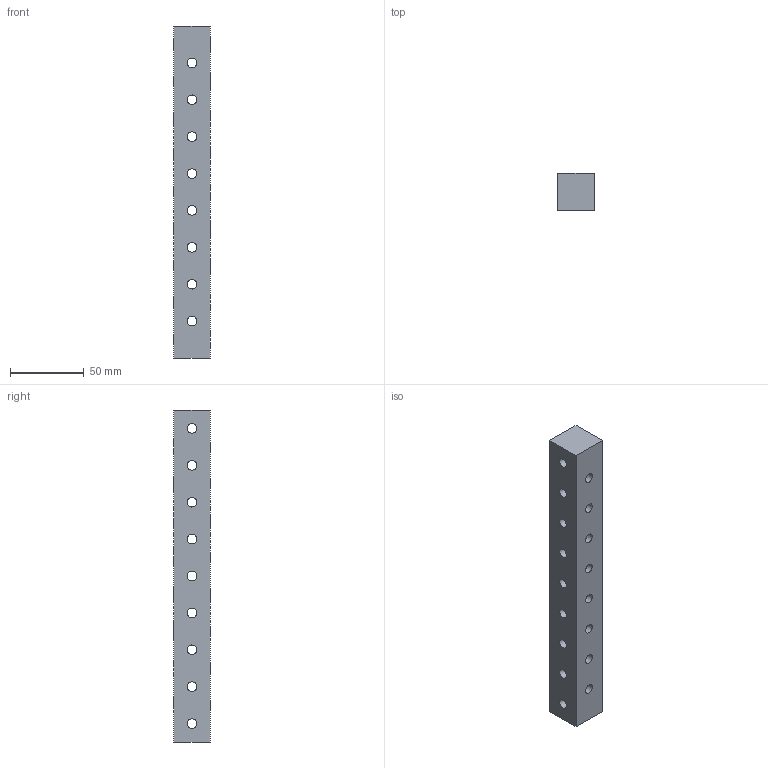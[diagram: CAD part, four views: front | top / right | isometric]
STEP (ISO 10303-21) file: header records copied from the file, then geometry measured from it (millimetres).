
FILE_DESCRIPTION(/* description */ (''),/* implementation_level */ '2;1');
FILE_NAME(/* name */ 'C:\Users\strothej\Documents\ActualDocuments\MicroscopeParts\TwoPhotonSystem\ScanningMechanics\v30\Drawings\Support_Upright_Bottom_Corner.stp',/* time_stamp */ '2017-06-28T13:46:11-07:00',/* author */ ('strothej'),/* organization */ (''),/* preprocessor_version */ 'ST-DEVELOPER v16.1',/* originating_system */ 'Autodesk Inventor 2016',/* authorisation */ '');
FILE_SCHEMA (('AUTOMOTIVE_DESIGN { 1 0 10303 214 3 1 1 }'));
Length unit declared in the file: millimetre
Products named in the file (1): Support_Upright_Bottom_Corner
Bounding box: 25 x 25 x 225 mm (x, y, z)
Volume: 119258.8 mm3; surface area: 33009.5 mm2
Topology: 1 solids, 1 shells, 57 faces, 114 edges, 76 vertices
Faces by surface type: cylinder 34, plane 23
Full cylindrical faces by diameter (mm): 6.5 x17, 10.5 x17
Entity records: 1438 total; most frequent: DIRECTION 264, CARTESIAN_POINT 214, ORIENTED_EDGE 160, EDGE_LOOP 142, AXIS2_PLACEMENT_3D 126, FACE_BOUND 85, EDGE_CURVE 80, VERTEX_POINT 76
